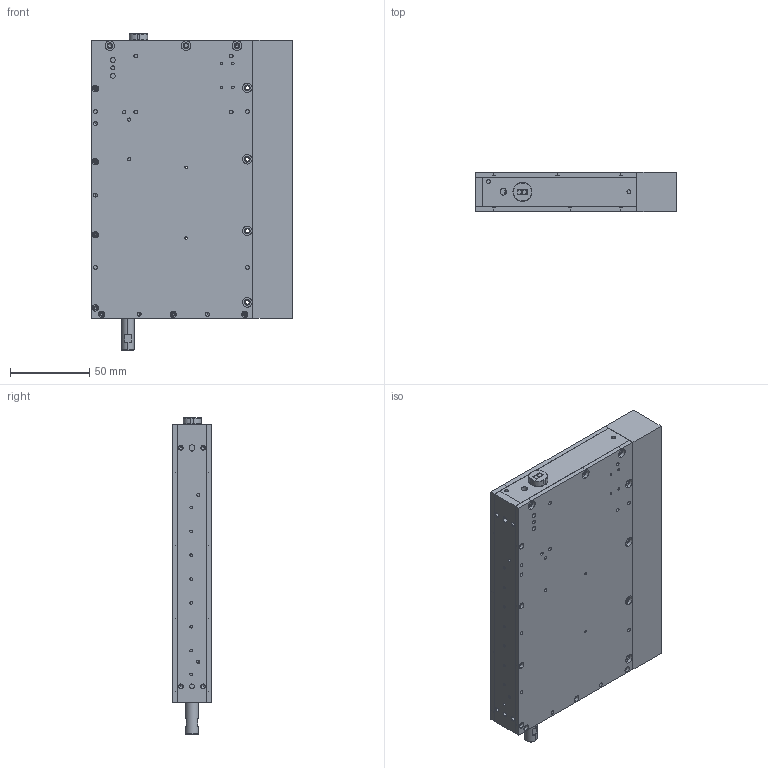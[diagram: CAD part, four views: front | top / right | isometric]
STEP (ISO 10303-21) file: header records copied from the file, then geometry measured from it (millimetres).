
FILE_DESCRIPTION (( 'STEP AP203' ), '1' );
FILE_NAME ('LBL25-025-3X-3_E.STEP', '2020-05-27T18:09:52', ( '' ), ( '' ), 'SwSTEP 2.0', 'SolidWorks 2018', '' );
FILE_SCHEMA (( 'CONFIG_CONTROL_DESIGN' ));
Length unit declared in the file: millimetre
Products named in the file (13): 902552-05-L_A; 230090-03_D; 140806-25_D; LBL25-025-3X-3_E; 22978-01; 210101-25_B; 140807-25_B; 902552-22_A; 902552-23_A; 902552-18_A; 140807-26_A; 230091-26_B; 110091-01_H
Assembly tree (12 placements, depth 3):
  LBL25-025-3X-3_E
    902552-05-L_A
      140807-25_B
    902552-23_A
      230090-03_D
      22978-01
    210101-25_B
    902552-22_A
      140806-25_D
    902552-18_A
      110091-01_H
    230091-26_B
    140807-26_A
Bounding box: 126.6 x 24.82 x 199.15 mm (x, y, z)
Volume: 215013 mm3; surface area: 130064.1 mm2
Topology: 8 solids, 8 shells, 605 faces, 1498 edges, 914 vertices
Faces by surface type: cylinder 352, cone 124, plane 121, torus 8
Entity records: 19381 total; most frequent: DIRECTION 3448, CARTESIAN_POINT 2964, ORIENTED_EDGE 2852, EDGE_CURVE 1426, AXIS2_PLACEMENT_3D 1398, VERTEX_POINT 914, EDGE_LOOP 860, CIRCLE 774
